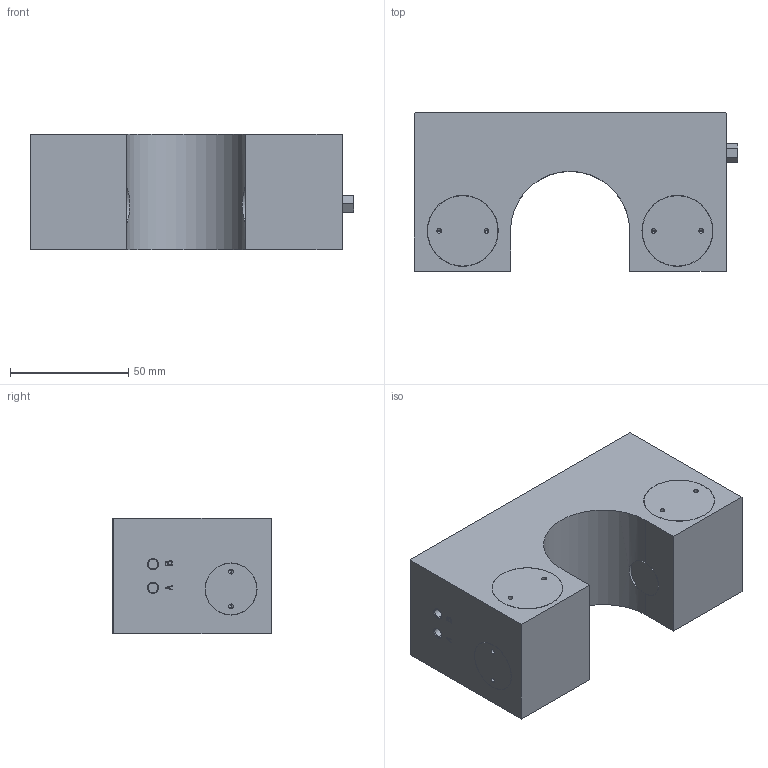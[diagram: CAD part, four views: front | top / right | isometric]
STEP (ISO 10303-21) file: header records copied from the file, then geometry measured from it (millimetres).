
FILE_DESCRIPTION( ( '' ), '1' );
FILE_NAME( 'E:/04 嬴檜蠱滌/0404 ZIMMER/040414 ZIMMER CAD download/MKR/MKR5000A.stp', '2020-04-16T10:10:20', ( '' ), ( '' ), ' ', ' ', ' ' );
FILE_SCHEMA( ( 'automotive_design' ) );
Length unit declared in the file: millimetre
Products named in the file (1): 1
Bounding box: 137 x 67 x 49 mm (x, y, z)
Volume: 338913.3 mm3; surface area: 41186.6 mm2
Topology: 1 solids, 2 shells, 184 faces, 426 edges, 264 vertices
Faces by surface type: plane 87, cylinder 65, cone 32
Entity records: 10132 total; most frequent: CARTESIAN_POINT 1049, DIRECTION 914, STYLED_ITEM 859, PRESENTATION_STYLE_ASSIGNMENT 859, COLOUR_RGB 859, ORIENTED_EDGE 820, EDGE_CURVE 410, CURVE_STYLE 410
